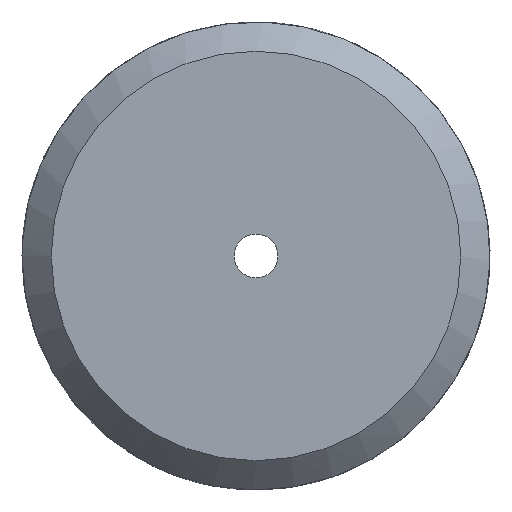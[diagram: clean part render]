
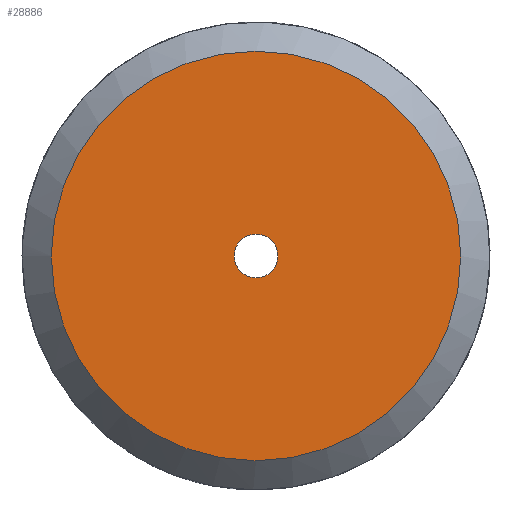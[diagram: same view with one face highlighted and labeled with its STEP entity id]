
A CAD part, left-side view. The second image highlights one B-rep face of the part: STEP entity #28886.
In plain terms, the highlighted planar face has unit normal (-1, 0, 0).
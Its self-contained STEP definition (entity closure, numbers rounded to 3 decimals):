
#10571=ORIENTED_EDGE('',*,*,#12192,.F.);
#10572=ORIENTED_EDGE('',*,*,#12193,.F.);
#10806=CIRCLE('',#28639,7.);
#10807=CIRCLE('',#28641,0.75);
#11381=VERTEX_POINT('',#28197);
#11382=VERTEX_POINT('',#28200);
#12192=EDGE_CURVE('',#11381,#11381,#10806,.T.);
#12193=EDGE_CURVE('',#11382,#11382,#10807,.T.);
#12436=EDGE_LOOP('',(#10571));
#12437=EDGE_LOOP('',(#10572));
#12682=FACE_BOUND('',#12436,.T.);
#12683=FACE_BOUND('',#12437,.T.);
#13554=DIRECTION('',(1.,0.,0.));
#13555=DIRECTION('',(0.,0.,-7.));
#13556=DIRECTION('',(-1.,0.,0.));
#13557=DIRECTION('',(0.,1.,0.));
#13558=DIRECTION('',(-1.,0.,0.));
#13559=DIRECTION('',(0.,0.,0.75));
#28197=CARTESIAN_POINT('',(0.,0.,-7.));
#28198=CARTESIAN_POINT('',(0.,0.,0.));
#28199=CARTESIAN_POINT('',(0.,0.,-7.));
#28200=CARTESIAN_POINT('',(0.,0.,0.75));
#28201=CARTESIAN_POINT('',(0.,0.,0.));
#28639=AXIS2_PLACEMENT_3D('',#28198,#13554,#13555);
#28640=AXIS2_PLACEMENT_3D('',#28199,#13556,#13557);
#28641=AXIS2_PLACEMENT_3D('',#28201,#13558,#13559);
#28646=PLANE('',#28640);
#28886=ADVANCED_FACE('',(#12682,#12683),#28646,.T.);
